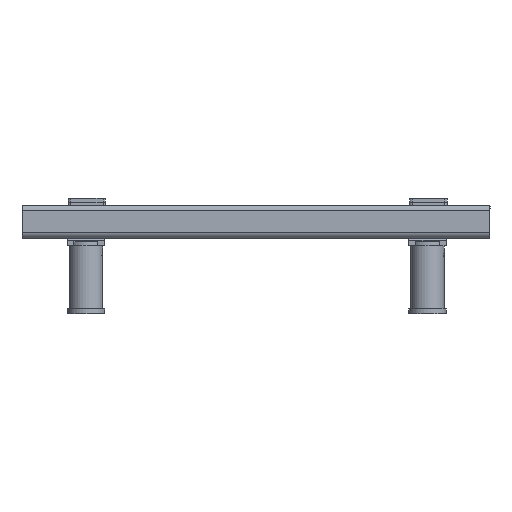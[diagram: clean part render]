
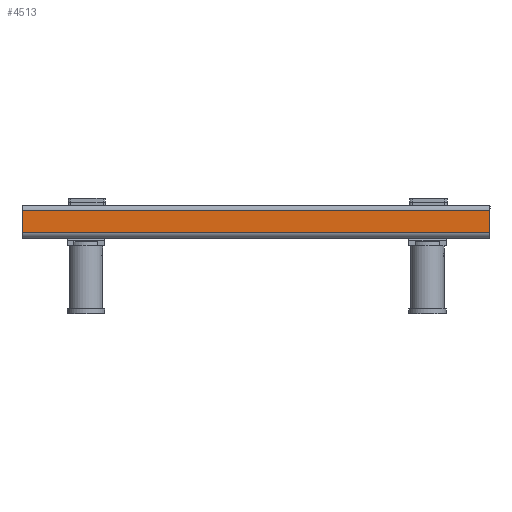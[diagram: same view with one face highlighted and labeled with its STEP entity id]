
A CAD part, left-side view. The second image highlights one B-rep face of the part: STEP entity #4513.
In plain terms, the highlighted planar face has unit normal (-1, 0, 0).
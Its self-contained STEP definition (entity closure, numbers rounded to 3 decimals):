
#507 = EDGE_CURVE ( 'NONE', #5445, #5440, #1365, .T. ) ;
#550 = EDGE_CURVE ( 'NONE', #5349, #5440, #1426, .T. ) ;
#553 = EDGE_CURVE ( 'NONE', #5281, #5445, #1431, .T. ) ;
#562 = EDGE_CURVE ( 'NONE', #5281, #5349, #1445, .T. ) ;
#895 = AXIS2_PLACEMENT_3D ( 'NONE', #2815, #2816, #2817 ) ;
#1365 = LINE ( 'NONE', #4693, #1366 ) ;
#1366 = VECTOR ( 'NONE', #4694, 1000. ) ;
#1426 = LINE ( 'NONE', #5650, #1428 ) ;
#1428 = VECTOR ( 'NONE', #5671, 1000. ) ;
#1431 = LINE ( 'NONE', #5646, #1433 ) ;
#1433 = VECTOR ( 'NONE', #5645, 1000. ) ;
#1445 = LINE ( 'NONE', #5568, #1446 ) ;
#1446 = VECTOR ( 'NONE', #5562, 1000. ) ;
#1757 = FACE_OUTER_BOUND ( 'NONE', #4866, .T. ) ;
#2814 = PLANE ( 'NONE',  #895 ) ;
#2815 = CARTESIAN_POINT ( 'NONE',  ( -15., 400., 70.942 ) ) ;
#2816 = DIRECTION ( 'NONE',  ( -1., 0., 0. ) ) ;
#2817 = DIRECTION ( 'NONE',  ( 0., 0., 1. ) ) ;
#3075 = CARTESIAN_POINT ( 'NONE',  ( -15., 400., 80.041 ) ) ;
#3143 = CARTESIAN_POINT ( 'NONE',  ( -15., 0., 80.041 ) ) ;
#3159 = CARTESIAN_POINT ( 'NONE',  ( -15., 0., 61.841 ) ) ;
#3164 = CARTESIAN_POINT ( 'NONE',  ( -15., 400., 61.841 ) ) ;
#4350 = ORIENTED_EDGE ( 'NONE', *, *, #507, .T. ) ;
#4367 = ORIENTED_EDGE ( 'NONE', *, *, #550, .F. ) ;
#4478 = ORIENTED_EDGE ( 'NONE', *, *, #553, .T. ) ;
#4484 = ORIENTED_EDGE ( 'NONE', *, *, #562, .F. ) ;
#4513 = ADVANCED_FACE ( 'NONE', ( #1757 ), #2814, .T. ) ;
#4693 = CARTESIAN_POINT ( 'NONE',  ( -15., 400., 61.841 ) ) ;
#4694 = DIRECTION ( 'NONE',  ( 0., -1., 0. ) ) ;
#4866 = EDGE_LOOP ( 'NONE', ( #4367, #4484, #4478, #4350 ) ) ;
#5281 = VERTEX_POINT ( 'NONE', #3075 ) ;
#5349 = VERTEX_POINT ( 'NONE', #3143 ) ;
#5440 = VERTEX_POINT ( 'NONE', #3159 ) ;
#5445 = VERTEX_POINT ( 'NONE', #3164 ) ;
#5562 = DIRECTION ( 'NONE',  ( 0., -1., 0. ) ) ;
#5568 = CARTESIAN_POINT ( 'NONE',  ( -15., 400., 80.041 ) ) ;
#5645 = DIRECTION ( 'NONE',  ( 0., 0., -1. ) ) ;
#5646 = CARTESIAN_POINT ( 'NONE',  ( -15., 400., 70.942 ) ) ;
#5650 = CARTESIAN_POINT ( 'NONE',  ( -15., 0., 70.942 ) ) ;
#5671 = DIRECTION ( 'NONE',  ( 0., 0., -1. ) ) ;
